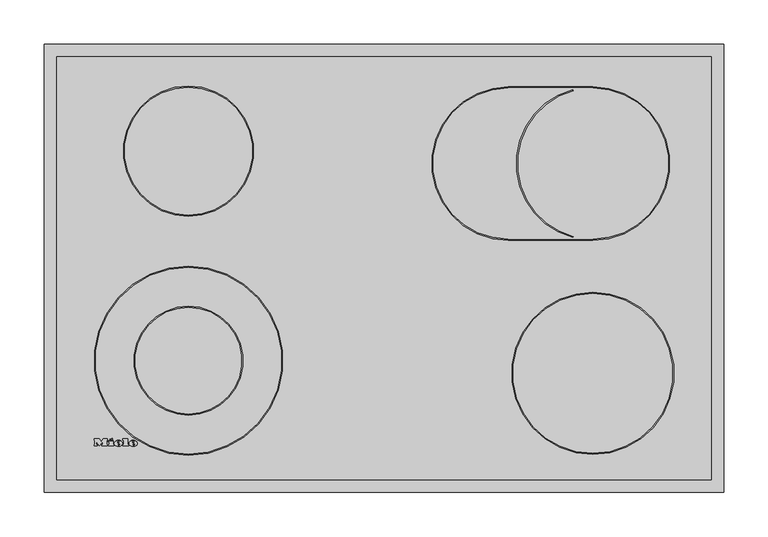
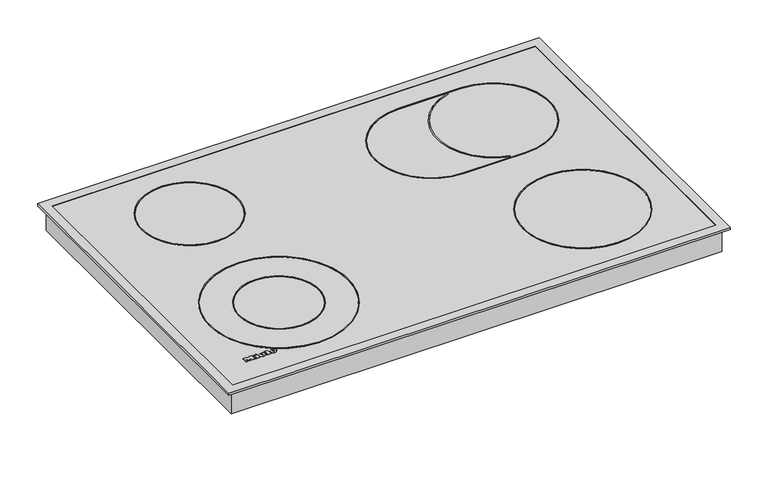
"""IFC4 building model written with IfcOpenShell, lengths in millimetres: proxy geometry, 12060530_F_KM6522FR : 26652210_F_12060530_KM6522FR."""

from ifc_helpers import new_model, si_unit, point, frame, frame_2d, origin, origin_with_axes, place, context, project, spatial, polyline, circle_curve, ellipse_curve, trimmed, segment, composite_curve, outline, extrude, faceted_brep, source, transform, mapped, element, save
from ifc_brep_helpers import plane_surface, cylinder_surface, revolved_surface, extruded_surface, advanced_brep


def specialty_equipment_aff92b17(model_context):
    return source(origin(), model_context, "Body", "SolidModel", [
        advanced_brep(
        [(-282.84, 54.1948833, 3.0802537), (-282.84, 55.0028828, 3.0811551), (-277.488, 55.0028828, 3.0811551), (-286.8, 55.0028828, 3.0811551), (-284.6, 52.2988845, 3.0781386), (-277.624, 54.1948833, 3.0802537), (-280.04, 54.1948833, 3.0802537), (-281.944, 53.2988838, 3.0792542), (-282.84, 56.0268821, 3.0822974), (-282.84, 56.8988816, 3.0832701), (-281.472, 56.8988816, 3.0832701), (-281.472, 56.0268821, 3.0822974), (-282.84, 54.1959988, 2.0802543), (-281.944, 53.2999994, 2.0792548), (-280.04, 54.1959988, 2.0802543), (-277.624, 54.1959988, 2.0802543), (-284.6, 52.3, 2.0781393), (-286.8, 55.0039983, 2.0811557), (-277.488, 55.0039983, 2.0811557), (-282.84, 55.0039983, 2.0811557), (-282.84, 56.0279977, 2.082298), (-281.472, 56.0279977, 2.082298), (-281.472, 56.8999971, 2.0832707), (-282.84, 56.8999971, 2.0832707)],
        [
            (0, 1),
            (1, 2),
            (2, 3, ellipse_curve(frame((-282.144, 55.0028828, 3.0811551), z_axis=(0.0, -0.0011155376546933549, 0.9999993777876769), x_axis=(-1.0, 0.0, 0.0)), 4.656, 3.848)),
            (3, 4, circle_curve(frame((-283.7039564, 55.2748826, 3.0814585), z_axis=(0.0, -0.0011155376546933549, 0.9999993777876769), x_axis=(0.0, -0.9999993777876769, -0.0011155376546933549)), 3.1079688)),
            (4, 5, circle_curve(frame((-282.2372064, 57.3868813, 3.0838145), z_axis=(0.0, -0.0011155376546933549, 0.9999993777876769), x_axis=(0.0, -0.9999993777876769, -0.0011155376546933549)), 5.6098607)),
            (5, 6),
            (6, 7, circle_curve(frame((-281.5529412, 54.9388828, 3.0810837), z_axis=(0.0, 0.0011155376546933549, -0.9999993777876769), x_axis=(0.0, -0.9999993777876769, -0.0011155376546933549)), 1.6859795)),
            (7, 0, circle_curve(frame((-281.944, 54.1948833, 3.0802537), z_axis=(0.0, 0.0011155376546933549, -0.9999993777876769), x_axis=(0.0, -0.9999993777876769, -0.0011155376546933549)), 0.896)),
            (8, 9),
            (9, 10, circle_curve(frame((-282.156, 56.8988816, 3.0832701), z_axis=(0.0, 0.0011155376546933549, -0.9999993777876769), x_axis=(0.0, -0.9999993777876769, -0.0011155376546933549)), 0.684)),
            (10, 11),
            (11, 8),
            (12, 13, circle_curve(frame((-281.944, 54.1959988, 2.0802543), z_axis=(0.0, -0.0011155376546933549, 0.9999993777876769), x_axis=(0.0, -0.9999993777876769, -0.0011155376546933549)), 0.896)),
            (13, 14, circle_curve(frame((-281.5529412, 54.9399984, 2.0810843), z_axis=(0.0, -0.0011155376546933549, 0.9999993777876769), x_axis=(0.0, -0.9999993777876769, -0.0011155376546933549)), 1.6859795)),
            (14, 15),
            (15, 16, circle_curve(frame((-282.2372064, 57.3879968, 2.0838151), z_axis=(0.0, 0.0011155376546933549, -0.9999993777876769), x_axis=(0.0, -0.9999993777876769, -0.0011155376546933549)), 5.6098607)),
            (16, 17, circle_curve(frame((-283.7039564, 55.2759981, 2.0814591), z_axis=(0.0, 0.0011155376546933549, -0.9999993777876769), x_axis=(0.0, -0.9999993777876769, -0.0011155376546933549)), 3.1079688)),
            (17, 18, ellipse_curve(frame((-282.144, 55.0039983, 2.0811557), z_axis=(0.0, 0.0011155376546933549, -0.9999993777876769), x_axis=(-1.0, 0.0, 0.0)), 4.656, 3.848)),
            (18, 19),
            (19, 12),
            (20, 21),
            (21, 22),
            (22, 23, circle_curve(frame((-282.156, 56.8999971, 2.0832707), z_axis=(0.0, -0.0011155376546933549, 0.9999993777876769), x_axis=(0.0, -0.9999993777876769, -0.0011155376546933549)), 0.684)),
            (23, 20),
            (0, 12),
            (19, 1),
            (18, 2),
            (5, 15),
            (14, 6),
            (17, 3),
            (13, 7),
            (16, 4),
            (8, 20),
            (23, 9),
            (22, 10),
            (21, 11),
        ],
        [
            plane_surface(frame((-282.84, 55.0028828, 3.0811551), z_axis=(0.0, -0.0011155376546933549, 0.9999993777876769), x_axis=(0.0, 0.9999993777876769, 0.0011155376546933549))),
            plane_surface(frame((-282.84, 55.0039983, 2.0811557), z_axis=(0.0, 0.0011155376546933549, -0.9999993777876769), x_axis=(0.0, -0.9999993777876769, -0.0011155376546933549))),
            plane_surface(frame((-282.84, 54.1948833, 3.0802537), z_axis=(1.0000000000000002, 0.0, 0.0), x_axis=(0.0, 0.001115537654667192, -0.999999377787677))),
            plane_surface(frame((-282.84, 55.0028828, 3.0811551), z_axis=(0.0, -0.999999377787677, -0.001115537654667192), x_axis=(0.0, 0.001115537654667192, -0.999999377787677))),
            plane_surface(frame((-277.624, 54.1948833, 3.0802537), z_axis=(0.0, 0.999999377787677, 0.001115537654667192), x_axis=(0.0, 0.001115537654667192, -0.999999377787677))),
            extruded_surface(trimmed(ellipse_curve(frame((-282.144, 55.0051139, 1.0811563), z_axis=(0.0, -0.0011155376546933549, 0.9999993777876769), x_axis=(-1.0, 0.0, 0.0)), 4.656, 3.848), [point((-277.488, 55.0051139, 1.0811563))], [point((-286.8, 55.0051139, 1.0811563))], True, "CARTESIAN"), (0.0, -0.001115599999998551, 0.9999994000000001), 1.00000002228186),
            revolved_surface(polyline([(-281.5529412, 53.25401994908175, 2.079203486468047), (-281.5529412, 53.25290441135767, 3.07920292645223)]), (-281.5529412, 54.9399984, 2.0810843), (0.0, 0.0011155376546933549, -0.9999993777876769)),
            revolved_surface(polyline([(-281.944, 53.29999935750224, 2.0792547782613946), (-281.944, 53.29888381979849, 3.0792542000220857)]), (-281.944, 54.1959988, 2.0802543), (0.0, 0.0011155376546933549, -0.9999993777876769)),
            cylinder_surface(frame((-283.7039564, 55.2759981, 2.0814591), z_axis=(0.0, -0.0011155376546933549, 0.9999993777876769), x_axis=(0.0, -0.9999993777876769, -0.0011155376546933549)), 3.1079688),
            cylinder_surface(frame((-282.2372064, 57.3879968, 2.0838151), z_axis=(0.0, -0.0011155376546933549, 0.9999993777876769), x_axis=(0.0, -0.9999993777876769, -0.0011155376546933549)), 5.6098607),
            plane_surface(frame((-282.84, 56.0268821, 3.0822974), z_axis=(1.0000000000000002, 0.0, 0.0), x_axis=(0.0, 0.001115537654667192, -0.999999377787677))),
            revolved_surface(polyline([(-282.156, 56.21599752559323, 2.0825076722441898), (-282.156, 56.214881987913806, 3.0825070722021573)]), (-282.156, 56.8999971, 2.0832707), (0.0, 0.0011155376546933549, -0.9999993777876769)),
            plane_surface(frame((-281.472, 56.8988816, 3.0832701), z_axis=(-1.0000000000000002, 0.0, 0.0), x_axis=(0.0, 0.001115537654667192, -0.999999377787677))),
            plane_surface(frame((-281.472, 56.0268821, 3.0822974), z_axis=(0.0, 0.999999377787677, 0.001115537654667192), x_axis=(0.0, 0.001115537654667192, -0.999999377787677))),
        ],
        [
            (0, [[1, 2, 3, 4, 5, 6, 7, 8], [9, 10, 11, 12]]),
            (1, [[13, 14, 15, 16, 17, 18, 19, 20], [21, 22, 23, 24]]),
            (2, [[-1, 25, -20, 26]]),
            (3, [[-2, -26, -19, 27]]),
            (4, [[-6, 28, -15, 29]]),
            (5, [[-3, -27, -18, 30]]),
            (6, [[-7, -29, -14, 31]]),
            (7, [[-8, -31, -13, -25]]),
            (8, [[-4, -30, -17, 32]]),
            (9, [[-5, -32, -16, -28]]),
            (10, [[-9, 33, -24, 34]]),
            (11, [[-10, -34, -23, 35]]),
            (12, [[-11, -35, -22, 36]]),
            (13, [[-12, -36, -21, -33]]),
        ],
    ),
        advanced_brep(
        [(-299.536, 54.1948833, 3.0802537), (-299.536, 55.0028828, 3.0811551), (-294.184, 55.0028828, 3.0811551), (-303.496, 55.0028828, 3.0811551), (-301.296, 52.2988845, 3.0781386), (-294.32, 54.1948833, 3.0802537), (-296.736, 54.1948833, 3.0802537), (-298.64, 53.2988838, 3.0792542), (-299.536, 56.0268821, 3.0822974), (-299.536, 56.8988816, 3.0832701), (-298.168, 56.8988816, 3.0832701), (-298.168, 56.0268821, 3.0822974), (-299.536, 54.1959988, 2.0802543), (-298.64, 53.2999994, 2.0792548), (-296.736, 54.1959988, 2.0802543), (-294.32, 54.1959988, 2.0802543), (-301.296, 52.3, 2.0781393), (-303.496, 55.0039983, 2.0811557), (-294.184, 55.0039983, 2.0811557), (-299.536, 55.0039983, 2.0811557), (-299.536, 56.0279977, 2.082298), (-298.168, 56.0279977, 2.082298), (-298.168, 56.8999971, 2.0832707), (-299.536, 56.8999971, 2.0832707)],
        [
            (0, 1),
            (1, 2),
            (2, 3, ellipse_curve(frame((-298.84, 55.0028828, 3.0811551), z_axis=(0.0, -0.0011155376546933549, 0.9999993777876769), x_axis=(-1.0, 0.0, 0.0)), 4.656, 3.848)),
            (3, 4, circle_curve(frame((-300.3999564, 55.2748826, 3.0814585), z_axis=(0.0, -0.0011155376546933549, 0.9999993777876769), x_axis=(0.0, -0.9999993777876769, -0.0011155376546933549)), 3.1079688)),
            (4, 5, circle_curve(frame((-298.9332064, 57.3868813, 3.0838145), z_axis=(0.0, -0.0011155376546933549, 0.9999993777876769), x_axis=(0.0, -0.9999993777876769, -0.0011155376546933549)), 5.6098607)),
            (5, 6),
            (6, 7, circle_curve(frame((-298.2489412, 54.9388828, 3.0810837), z_axis=(0.0, 0.0011155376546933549, -0.9999993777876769), x_axis=(0.0, -0.9999993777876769, -0.0011155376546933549)), 1.6859795)),
            (7, 0, circle_curve(frame((-298.64, 54.1948833, 3.0802537), z_axis=(0.0, 0.0011155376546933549, -0.9999993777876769), x_axis=(0.0, -0.9999993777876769, -0.0011155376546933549)), 0.896)),
            (8, 9),
            (9, 10, circle_curve(frame((-298.852, 56.8988816, 3.0832701), z_axis=(0.0, 0.0011155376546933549, -0.9999993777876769), x_axis=(0.0, -0.9999993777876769, -0.0011155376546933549)), 0.684)),
            (10, 11),
            (11, 8),
            (12, 13, circle_curve(frame((-298.64, 54.1959988, 2.0802543), z_axis=(0.0, -0.0011155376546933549, 0.9999993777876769), x_axis=(0.0, -0.9999993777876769, -0.0011155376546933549)), 0.896)),
            (13, 14, circle_curve(frame((-298.2489412, 54.9399984, 2.0810843), z_axis=(0.0, -0.0011155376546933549, 0.9999993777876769), x_axis=(0.0, -0.9999993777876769, -0.0011155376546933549)), 1.6859795)),
            (14, 15),
            (15, 16, circle_curve(frame((-298.9332064, 57.3879968, 2.0838151), z_axis=(0.0, 0.0011155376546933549, -0.9999993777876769), x_axis=(0.0, -0.9999993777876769, -0.0011155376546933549)), 5.6098607)),
            (16, 17, circle_curve(frame((-300.3999564, 55.2759981, 2.0814591), z_axis=(0.0, 0.0011155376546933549, -0.9999993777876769), x_axis=(0.0, -0.9999993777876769, -0.0011155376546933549)), 3.1079688)),
            (17, 18, ellipse_curve(frame((-298.84, 55.0039983, 2.0811557), z_axis=(0.0, 0.0011155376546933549, -0.9999993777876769), x_axis=(-1.0, 0.0, 0.0)), 4.656, 3.848)),
            (18, 19),
            (19, 12),
            (20, 21),
            (21, 22),
            (22, 23, circle_curve(frame((-298.852, 56.8999971, 2.0832707), z_axis=(0.0, -0.0011155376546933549, 0.9999993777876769), x_axis=(0.0, -0.9999993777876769, -0.0011155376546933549)), 0.684)),
            (23, 20),
            (0, 12),
            (19, 1),
            (18, 2),
            (5, 15),
            (14, 6),
            (17, 3),
            (13, 7),
            (16, 4),
            (8, 20),
            (23, 9),
            (22, 10),
            (21, 11),
        ],
        [
            plane_surface(frame((-299.536, 55.0028828, 3.0811551), z_axis=(0.0, -0.0011155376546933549, 0.9999993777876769), x_axis=(0.0, 0.9999993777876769, 0.0011155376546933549))),
            plane_surface(frame((-299.536, 55.0039983, 2.0811557), z_axis=(0.0, 0.0011155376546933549, -0.9999993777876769), x_axis=(0.0, -0.9999993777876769, -0.0011155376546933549))),
            plane_surface(frame((-299.536, 54.1948833, 3.0802537), z_axis=(1.0000000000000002, 0.0, 0.0), x_axis=(0.0, 0.001115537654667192, -0.999999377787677))),
            plane_surface(frame((-299.536, 55.0028828, 3.0811551), z_axis=(0.0, -0.999999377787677, -0.001115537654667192), x_axis=(0.0, 0.001115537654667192, -0.999999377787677))),
            plane_surface(frame((-294.32, 54.1948833, 3.0802537), z_axis=(0.0, 0.999999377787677, 0.001115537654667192), x_axis=(0.0, 0.001115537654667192, -0.999999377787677))),
            extruded_surface(trimmed(ellipse_curve(frame((-298.84, 55.0051139, 1.0811563), z_axis=(0.0, -0.0011155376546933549, 0.9999993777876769), x_axis=(-1.0, 0.0, 0.0)), 4.656, 3.848), [point((-294.184, 55.0051139, 1.0811563))], [point((-303.496, 55.0051139, 1.0811563))], True, "CARTESIAN"), (0.0, -0.001115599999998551, 0.9999994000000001), 1.00000002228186),
            revolved_surface(polyline([(-298.2489412, 53.25401994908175, 2.079203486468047), (-298.2489412, 53.25290441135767, 3.07920292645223)]), (-298.2489412, 54.9399984, 2.0810843), (0.0, 0.0011155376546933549, -0.9999993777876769)),
            revolved_surface(polyline([(-298.64, 53.29999935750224, 2.0792547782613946), (-298.64, 53.29888381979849, 3.0792542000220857)]), (-298.64, 54.1959988, 2.0802543), (0.0, 0.0011155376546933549, -0.9999993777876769)),
            cylinder_surface(frame((-300.3999564, 55.2759981, 2.0814591), z_axis=(0.0, -0.0011155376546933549, 0.9999993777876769), x_axis=(0.0, -0.9999993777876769, -0.0011155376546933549)), 3.1079688),
            cylinder_surface(frame((-298.9332064, 57.3879968, 2.0838151), z_axis=(0.0, -0.0011155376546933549, 0.9999993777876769), x_axis=(0.0, -0.9999993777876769, -0.0011155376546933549)), 5.6098607),
            plane_surface(frame((-299.536, 56.0268821, 3.0822974), z_axis=(1.0000000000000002, 0.0, 0.0), x_axis=(0.0, 0.001115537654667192, -0.999999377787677))),
            revolved_surface(polyline([(-298.852, 56.21599752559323, 2.0825076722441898), (-298.852, 56.214881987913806, 3.0825070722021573)]), (-298.852, 56.8999971, 2.0832707), (0.0, 0.0011155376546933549, -0.9999993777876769)),
            plane_surface(frame((-298.168, 56.8988816, 3.0832701), z_axis=(-1.0000000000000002, 0.0, 0.0), x_axis=(0.0, 0.001115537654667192, -0.999999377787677))),
            plane_surface(frame((-298.168, 56.0268821, 3.0822974), z_axis=(0.0, 0.999999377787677, 0.001115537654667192), x_axis=(0.0, 0.001115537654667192, -0.999999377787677))),
        ],
        [
            (0, [[1, 2, 3, 4, 5, 6, 7, 8], [9, 10, 11, 12]]),
            (1, [[13, 14, 15, 16, 17, 18, 19, 20], [21, 22, 23, 24]]),
            (2, [[-1, 25, -20, 26]]),
            (3, [[-2, -26, -19, 27]]),
            (4, [[-6, 28, -15, 29]]),
            (5, [[-3, -27, -18, 30]]),
            (6, [[-7, -29, -14, 31]]),
            (7, [[-8, -31, -13, -25]]),
            (8, [[-4, -30, -17, 32]]),
            (9, [[-5, -32, -16, -28]]),
            (10, [[-9, 33, -24, 34]]),
            (11, [[-10, -34, -23, 35]]),
            (12, [[-11, -35, -22, 36]]),
            (13, [[-12, -36, -21, -33]]),
        ],
    ),
        extrude(outline(polyline([(0.0, 0.0), (-0.0109086, -2.9993294), (-1.4390415, -2.9920868), (-1.4315307, 0.0), (0.0, 0.0)])), frame((-308.28, 59.8279953, 2.086537), z_axis=(0.0, -0.001115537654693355, 0.999999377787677), x_axis=(-0.4247202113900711, 0.9053240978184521, 0.0010099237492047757)), (0.0, 0.0, 1.0), 1.0),
        extrude(outline(polyline([(-0.4933908, 2.4141097), (-2.7800844, -2.4601583), (-7.0459741, -0.4588767), (-7.4401145, -1.299018), (-8.6568709, -0.728194), (-5.9760369, 4.9862153), (-4.7592805, 4.4153913), (-5.1636142, 3.5535222), (-2.1941493, 2.1604399), (-1.7898157, 3.022309), (-0.4933908, 2.4141097)])), frame((-308.28, 59.8279953, 2.086537), z_axis=(0.0, -0.001115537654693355, 0.999999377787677), x_axis=(-0.4247202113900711, 0.9053240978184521, 0.0010099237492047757)), (0.0, 0.0, 1.0), 1.0),
        extrude(outline(polyline([(0.0, 0.0), (0.0, -1.304), (-5.504, -1.304), (-5.504, 5.3519999), (-6.488, 5.3519999), (-6.488, 6.696), (0.0, 6.696), (0.0, 5.3519999), (-0.96, 5.3519999), (-0.96, 0.0), (0.0, 0.0)])), frame((-293.736, 58.9959958, 2.0856089), z_axis=(0.0, -0.0011155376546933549, 0.9999993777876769), x_axis=(-1.0, 0.0, 0.0)), (0.0, 0.0, 1.0), 1.0),
        extrude(outline(polyline([(0.0, 0.0), (0.0, -1.304), (-5.576, -1.304), (-7.92, 1.696), (-10.256, -1.304), (-15.128, -1.304), (-15.128, 0.0), (-14.112, 0.0), (-14.112, 5.3519999), (-15.128, 5.3519999), (-15.128, 6.696), (-8.744, 6.696), (-8.744, 5.3519999), (-9.728, 5.3519999), (-9.728, 1.8807777), (-6.136, 6.696), (-2.56, 1.9488752), (-2.56, 5.3519999), (-3.52, 5.3519999), (-3.52, 6.696), (0.0, 6.696), (0.0, 5.3519999), (-0.968, 5.3519999), (-0.968, 0.0), (0.0, 0.0)])), frame((-326.2, 58.9959958, 2.0856089), z_axis=(0.0, -0.0011155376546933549, 0.9999993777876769), x_axis=(-1.0, 0.0, 0.0)), (0.0, 0.0, 1.0), 1.0),
        extrude(outline(polyline([(372.7, 494.7), (372.7, 9.3), (-372.7, 9.3), (-372.7, 494.7), (372.7, 494.7)])), frame((0.0, 0.0, -3.5), z_axis=(0.0, 0.0, 1.0), x_axis=(1.0, 0.0, 0.0)), (0.0, 0.0, 1.0), 3.5),
        extrude(outline(polyline([(-35.3, 470.5), (-35.3, 374.5), (-90.3, 374.5), (-90.3, 470.5), (-35.3, 470.5)])), frame((0.0, 0.0, -42.6), z_axis=(0.0, 0.0, 1.0), x_axis=(1.0, 0.0, 0.0)), (0.0, 0.0, 1.0), 5.3),
        extrude(outline(polyline([(-107.6, 474.1), (-107.6, 457.8), (-115.9, 457.8), (-115.9, 474.1), (-107.6, 474.1)])), frame((0.0, 0.0, -44.9), z_axis=(0.0, 0.0, 1.0), x_axis=(1.0, 0.0, 0.0)), (0.0, 0.0, 1.0), 7.6),
        extrude(outline(polyline([(373.8, 495.8), (373.8, 8.2), (-373.8, 8.2), (-373.8, 495.8), (373.8, 495.8)])), frame((0.0, 0.0, -37.3), z_axis=(0.0, 0.0, 1.0), x_axis=(1.0, 0.0, 0.0)), (0.0, 0.0, 1.0), 33.8),
        extrude(outline(polyline([(379.0, 498.0), (379.0, 1.0), (-379.0, 1.0), (-379.0, 498.0), (379.0, 498.0)])), origin_with_axes(), (0.0, 0.0, 1.0), 2.6),
        faceted_brep([(368.0, 490.0, 3.6), (368.0, 490.0, 2.6), (368.0, 14.0, 2.6), (368.0, 14.0, 3.6), (382.0, 504.0, 0.0), (382.0, 504.0, 3.6), (382.0, 0.0, 3.6), (382.0, 0.0, 0.0), (381.0, 503.0, 2.6), (381.0, 503.0, 0.0), (381.0, 1.0, 0.0), (381.0, 1.0, 2.6), (-368.0, 14.0, 2.6), (-368.0, 14.0, 3.6), (-382.0, 0.0, 3.6), (-382.0, 0.0, 0.0), (-381.0, 1.0, 0.0), (-381.0, 1.0, 2.6), (-368.0, 490.0, 2.6), (-368.0, 490.0, 3.6), (-382.0, 504.0, 3.6), (-382.0, 504.0, 0.0), (-381.0, 503.0, 0.0), (-381.0, 503.0, 2.6)], [[[0, 1, 2, 3]], [[4, 5, 6, 7]], [[8, 9, 10, 11]], [[3, 2, 12, 13]], [[7, 6, 14, 15]], [[11, 10, 16, 17]], [[13, 12, 18, 19]], [[15, 14, 20, 21]], [[17, 16, 22, 23]], [[19, 18, 1, 0]], [[5, 20, 14, 6], [3, 13, 19, 0]], [[21, 20, 5, 4]], [[7, 15, 21, 4], [9, 22, 16, 10]], [[23, 22, 9, 8]], [[11, 17, 23, 8], [1, 18, 12, 2]]]),
        extrude(outline(composite_curve([segment(trimmed(circle_curve(frame_2d((-60.4, 463.0)), 7.5), [point((-60.4, 470.5))], [point((-60.4, 455.5))], False, "CARTESIAN"), True, "CONTINUOUS"), segment(trimmed(circle_curve(frame_2d((-60.4, 463.0)), 7.5), [point((-60.4, 455.5))], [point((-60.4, 470.5))], False, "CARTESIAN"), True, "CONTINUOUS")], self_intersect=False)), frame((0.0, 0.0, -72.6), z_axis=(0.0, 0.0, 1.0), x_axis=(1.0, 0.0, 0.0)), (0.0, 0.0, 1.0), 30.0),
        extrude(outline(polyline([(-53.0227397, 458.0), (-60.4, 458.0), (-60.4, 459.2557039), (-54.2784436, 459.2557039), (-54.2784436, 462.5519266), (-59.929111, 462.5519266), (-59.929111, 463.8076304), (-54.2784436, 463.8076304), (-54.2784436, 466.7899271), (-60.243037, 466.7899271), (-60.243037, 468.045631), (-53.0227397, 468.045631), (-53.0227397, 458.0)])), frame((0.0, 0.0, -73.6), z_axis=(0.0, 0.0, 1.0), x_axis=(1.0, 0.0, 0.0)), (0.0, 0.0, 1.0), 1.0),
        extrude(outline(polyline([(-62.2835558, 458.0), (-68.5620752, 458.0), (-68.5620752, 459.2557039), (-63.5392597, 459.2557039), (-63.5392597, 468.045631), (-62.2835558, 468.045631), (-62.2835558, 458.0)])), frame((0.0, 0.0, -73.6), z_axis=(0.0, 0.0, 1.0), x_axis=(1.0, 0.0, 0.0)), (0.0, 0.0, 1.0), 1.0),
        extrude(outline(composite_curve([segment(trimmed(circle_curve(frame_2d((-220.0, 384.0)), 73.2), [point((-220.0, 457.2))], [point((-220.0, 310.8))], False, "CARTESIAN"), True, "CONTINUOUS"), segment(trimmed(circle_curve(frame_2d((-220.0, 384.0)), 73.2), [point((-220.0, 310.8))], [point((-220.0, 457.2))], False, "CARTESIAN"), True, "CONTINUOUS")], self_intersect=False), holes=[composite_curve([segment(trimmed(circle_curve(frame_2d((-220.0, 384.0)), 72.0), [point((-220.0, 456.0))], [point((-220.0, 312.0))], True, "CARTESIAN"), True, "CONTINUOUS"), segment(trimmed(circle_curve(frame_2d((-220.0, 384.0)), 72.0), [point((-220.0, 312.0))], [point((-220.0, 456.0))], True, "CARTESIAN"), True, "CONTINUOUS")], self_intersect=False)]), frame((0.0, 0.0, 2.6), z_axis=(0.0, 0.0, 1.0), x_axis=(1.0, 0.0, 0.0)), (0.0, 0.0, 1.0), 1.0),
        extrude(outline(composite_curve([segment(trimmed(circle_curve(frame_2d((235.0, 134.0)), 91.2), [point((235.0, 225.2))], [point((235.0, 42.8))], False, "CARTESIAN"), True, "CONTINUOUS"), segment(trimmed(circle_curve(frame_2d((235.0, 134.0)), 91.2), [point((235.0, 42.8))], [point((235.0, 225.2))], False, "CARTESIAN"), True, "CONTINUOUS")], self_intersect=False), holes=[composite_curve([segment(trimmed(circle_curve(frame_2d((235.0, 134.0)), 90.0), [point((235.0, 224.0))], [point((235.0, 44.0))], True, "CARTESIAN"), True, "CONTINUOUS"), segment(trimmed(circle_curve(frame_2d((235.0, 134.0)), 90.0), [point((235.0, 44.0))], [point((235.0, 224.0))], True, "CARTESIAN"), True, "CONTINUOUS")], self_intersect=False)]), frame((0.0, 0.0, 2.6), z_axis=(0.0, 0.0, 1.0), x_axis=(1.0, 0.0, 0.0)), (0.0, 0.0, 1.0), 1.0),
        extrude(outline(composite_curve([segment(trimmed(circle_curve(frame_2d((-220.0, 148.2)), 106.2), [point((-220.0, 254.4))], [point((-220.0, 42.0))], False, "CARTESIAN"), True, "CONTINUOUS"), segment(trimmed(circle_curve(frame_2d((-220.0, 148.2)), 106.2), [point((-220.0, 42.0))], [point((-220.0, 254.4))], False, "CARTESIAN"), True, "CONTINUOUS")], self_intersect=False), holes=[composite_curve([segment(trimmed(circle_curve(frame_2d((-220.0, 148.2)), 105.0), [point((-220.0, 253.2))], [point((-220.0, 43.2))], True, "CARTESIAN"), True, "CONTINUOUS"), segment(trimmed(circle_curve(frame_2d((-220.0, 148.2)), 105.0), [point((-220.0, 43.2))], [point((-220.0, 253.2))], True, "CARTESIAN"), True, "CONTINUOUS")], self_intersect=False)]), frame((0.0, 0.0, 2.6), z_axis=(0.0, 0.0, 1.0), x_axis=(1.0, 0.0, 0.0)), (0.0, 0.0, 1.0), 1.0),
        extrude(outline(composite_curve([segment(trimmed(circle_curve(frame_2d((-220.0, 148.2)), 61.2), [point((-220.0, 209.4))], [point((-220.0, 87.0))], False, "CARTESIAN"), True, "CONTINUOUS"), segment(trimmed(circle_curve(frame_2d((-220.0, 148.2)), 61.2), [point((-220.0, 87.0))], [point((-220.0, 209.4))], False, "CARTESIAN"), True, "CONTINUOUS")], self_intersect=False), holes=[composite_curve([segment(trimmed(circle_curve(frame_2d((-220.0, 148.2)), 60.0), [point((-220.0, 208.2))], [point((-220.0, 88.2))], True, "CARTESIAN"), True, "CONTINUOUS"), segment(trimmed(circle_curve(frame_2d((-220.0, 148.2)), 60.0), [point((-220.0, 88.2))], [point((-220.0, 208.2))], True, "CARTESIAN"), True, "CONTINUOUS")], self_intersect=False)]), frame((0.0, 0.0, 2.6), z_axis=(0.0, 0.0, 1.0), x_axis=(1.0, 0.0, 0.0)), (0.0, 0.0, 1.0), 1.0),
        extrude(outline(composite_curve([segment(trimmed(circle_curve(frame_2d((140.0, 370.0)), 86.2), [point((140.0, 283.8))], [point((140.0, 456.2))], False, "CARTESIAN"), True, "CONTINUOUS"), segment(polyline([(140.0, 456.2), (235.0, 456.2)]), True, "CONTINUOUS"), segment(trimmed(circle_curve(frame_2d((235.0, 370.0)), 86.2), [point((235.0, 456.2))], [point((235.0, 283.8))], False, "CARTESIAN"), True, "CONTINUOUS"), segment(polyline([(235.0, 283.8), (140.0, 283.8)]), True, "CONTINUOUS")], self_intersect=False), holes=[composite_curve([segment(polyline([(140.0, 285.0), (235.0, 285.0)]), True, "CONTINUOUS"), segment(trimmed(circle_curve(frame_2d((235.0, 370.0)), 85.0), [point((235.0, 285.0))], [point((235.0, 455.0))], True, "CARTESIAN"), True, "CONTINUOUS"), segment(polyline([(235.0, 455.0), (140.0, 455.0)]), True, "CONTINUOUS"), segment(trimmed(circle_curve(frame_2d((140.0, 370.0)), 85.0), [point((140.0, 455.0))], [point((140.0, 285.0))], True, "CARTESIAN"), True, "CONTINUOUS")], self_intersect=False)]), frame((0.0, 0.0, 2.6), z_axis=(0.0, 0.0, 1.0), x_axis=(1.0, 0.0, 0.0)), (0.0, 0.0, 1.0), 1.0),
        extrude(outline(composite_curve([segment(trimmed(circle_curve(frame_2d((235.0, 370.0)), 86.2), [point((212.0766316, 286.903916))], [point((212.0766316, 453.096084))], False, "CARTESIAN"), True, "CONTINUOUS"), segment(trimmed(circle_curve(frame_2d((140.0, 370.0)), 110.0), [point((212.0766316, 453.096084))], [point((213.1578947, 452.145739))], False, "CARTESIAN"), True, "CONTINUOUS"), segment(trimmed(circle_curve(frame_2d((235.0, 370.0)), 85.0), [point((213.1578947, 452.145739))], [point((213.1578947, 287.854261))], True, "CARTESIAN"), True, "CONTINUOUS"), segment(trimmed(circle_curve(frame_2d((140.0, 370.0)), 110.0), [point((213.1578947, 287.854261))], [point((212.0766316, 286.903916))], False, "CARTESIAN"), True, "CONTINUOUS")], self_intersect=False)), frame((0.0, 0.0, 2.6), z_axis=(0.0, 0.0, 1.0), x_axis=(1.0, 0.0, 0.0)), (0.0, 0.0, 1.0), 1.0),
    ])


if __name__ == "__main__":
    model = new_model("IFC4")
    model_context = context("Model", 3, world=origin())
    ifc_project = project(units=[si_unit("LENGTHUNIT", "METRE", prefix="MILLI")], contexts=[model_context])
    site = spatial("IfcSite", under=ifc_project)
    building = spatial("IfcBuilding", under=site)
    placement = place(None, origin())
    specialty_equipment_shape = specialty_equipment_aff92b17(model_context)
    element("IfcBuildingElementProxy", 1, Name="12060530_F_KM6522FR : 26652210_F_12060530_KM6522FR", ObjectType="12060530_F_KM6522FR : 26652210_F_12060530_KM6522FR", at=placement, inside=building, context=model_context, shape_type="MappedRepresentation", body=[
        mapped(specialty_equipment_shape, transform((0.0, 0.0, 0.0), x_axis=(1.0, 0.0, 0.0), y_axis=(0.0, 1.0, 0.0), z_axis=(0.0, 0.0, 1.0))),
    ])
    save(model, "model.ifc")
